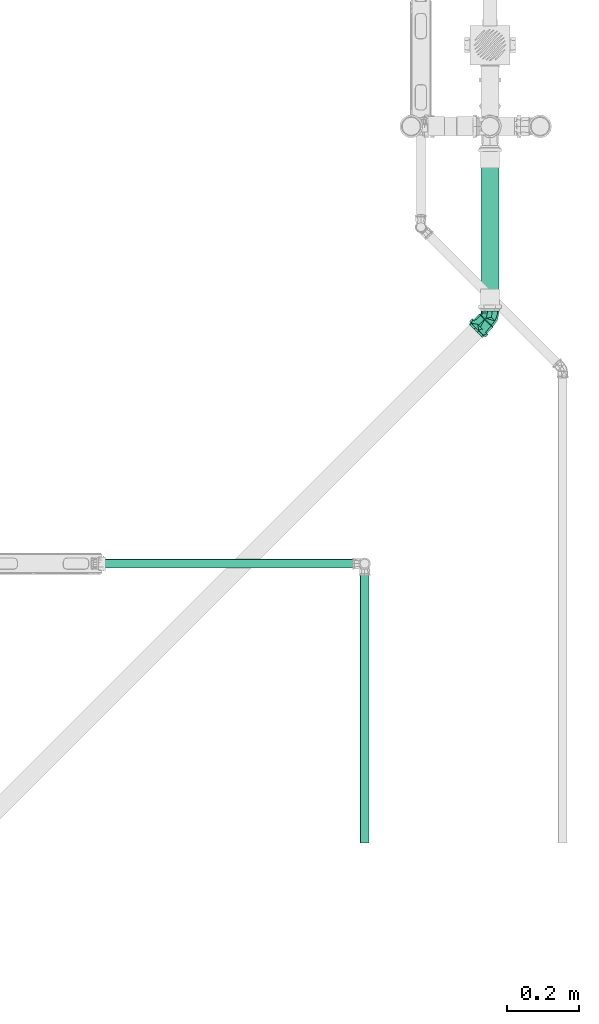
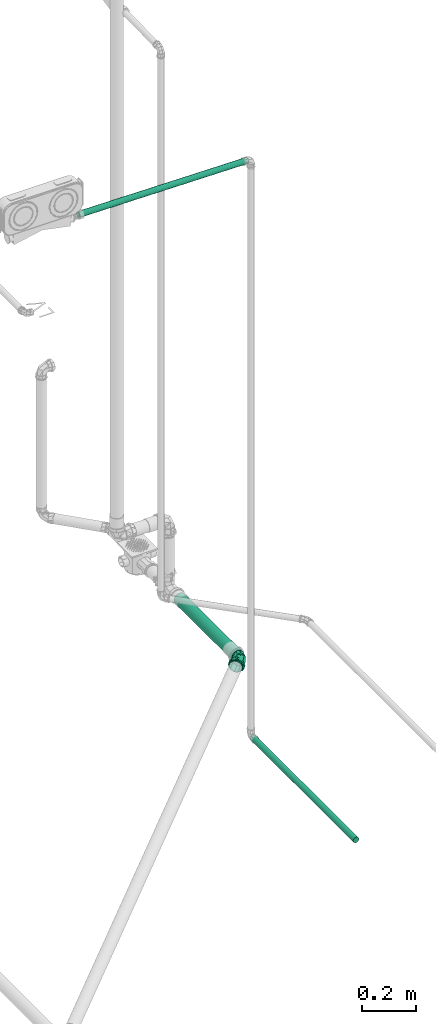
# One storey, part 163 of 589: 3 flow segments, 1 flow fitting.
"""IFC2X3 building model written with IfcOpenShell, lengths in millimetres."""

from ifc_helpers import new_model, entity, si_unit, converted_unit, derived_unit, direction, frame, frame_2d, origin, place, context, subcontext, project, spatial, circle, extrude, faceted_brep, source, transform, mapped, material, type_object, type_shapes, element, save


model = new_model("IFC2X3")

# Units and contexts
model_context = context("Model", 3, precision=0.01, world=origin(), true_north=direction((6.123031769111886e-17, 1.0)))
body_context = subcontext(model_context, "Body", "Model", "MODEL_VIEW")
ifc_project = project(units=[si_unit("LENGTHUNIT", "METRE", prefix="MILLI"), si_unit("AREAUNIT", "SQUARE_METRE"), si_unit("VOLUMEUNIT", "CUBIC_METRE"), converted_unit("PLANEANGLEUNIT", "DEGREE", entity("IfcRatioMeasure", 0.017453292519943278), si_unit("PLANEANGLEUNIT", "RADIAN"), dimensions=[0, 0, 0, 0, 0, 0, 0]), si_unit("MASSUNIT", "GRAM", prefix="KILO"), derived_unit("MASSDENSITYUNIT", [(si_unit("MASSUNIT", "GRAM", prefix="KILO"), 1), (si_unit("LENGTHUNIT", "METRE"), -3)]), derived_unit("IONCONCENTRATIONUNIT", [(si_unit("MASSUNIT", "GRAM", prefix="KILO"), 1), (si_unit("LENGTHUNIT", "METRE"), -3)]), derived_unit("MOMENTOFINERTIAUNIT", [(si_unit("LENGTHUNIT", "METRE"), 4)]), si_unit("TIMEUNIT", "SECOND"), si_unit("FREQUENCYUNIT", "HERTZ"), si_unit("THERMODYNAMICTEMPERATUREUNIT", "DEGREE_CELSIUS"), derived_unit("THERMALTRANSMITTANCEUNIT", [(si_unit("MASSUNIT", "GRAM", prefix="KILO"), 1), (si_unit("THERMODYNAMICTEMPERATUREUNIT", "KELVIN"), -1), (si_unit("TIMEUNIT", "SECOND"), -3)]), derived_unit("THERMALCONDUCTANCEUNIT", [(si_unit("MASSUNIT", "GRAM", prefix="KILO"), 1), (si_unit("THERMODYNAMICTEMPERATUREUNIT", "KELVIN"), -1), (si_unit("TIMEUNIT", "SECOND"), -3), (si_unit("LENGTHUNIT", "METRE"), 1)]), derived_unit("VOLUMETRICFLOWRATEUNIT", [(si_unit("LENGTHUNIT", "METRE"), 3), (si_unit("TIMEUNIT", "SECOND"), -1)]), derived_unit("MASSFLOWRATEUNIT", [(si_unit("MASSUNIT", "GRAM", prefix="KILO"), 1), (si_unit("TIMEUNIT", "SECOND"), -1)]), derived_unit("ROTATIONALFREQUENCYUNIT", [(si_unit("TIMEUNIT", "SECOND"), -1)]), si_unit("ELECTRICCURRENTUNIT", "AMPERE"), si_unit("ELECTRICVOLTAGEUNIT", "VOLT"), si_unit("POWERUNIT", "WATT"), si_unit("FORCEUNIT", "NEWTON", prefix="KILO"), si_unit("ILLUMINANCEUNIT", "LUX"), si_unit("LUMINOUSFLUXUNIT", "LUMEN"), si_unit("LUMINOUSINTENSITYUNIT", "CANDELA"), derived_unit("USERDEFINED", [(si_unit("MASSUNIT", "GRAM", prefix="KILO"), -1), (si_unit("LENGTHUNIT", "METRE"), -2), (si_unit("TIMEUNIT", "SECOND"), 3), (si_unit("LUMINOUSFLUXUNIT", "LUMEN"), 1)]), derived_unit("USERDEFINED", [(si_unit("MASSUNIT", "GRAM", prefix="KILO"), 1), (si_unit("TIMEUNIT", "SECOND"), -3), (si_unit("LENGTHUNIT", "METRE"), 3), (si_unit("ELECTRICCURRENTUNIT", "AMPERE"), -2)]), derived_unit("SOUNDPOWERUNIT", [(si_unit("MASSUNIT", "GRAM", prefix="KILO"), 1), (si_unit("TIMEUNIT", "SECOND"), -3), (si_unit("LENGTHUNIT", "METRE"), 2)]), derived_unit("SOUNDPRESSUREUNIT", [(si_unit("MASSUNIT", "GRAM", prefix="KILO"), 1), (si_unit("LENGTHUNIT", "METRE"), -1), (si_unit("TIMEUNIT", "SECOND"), -2)]), derived_unit("LINEARVELOCITYUNIT", [(si_unit("LENGTHUNIT", "METRE"), 1), (si_unit("TIMEUNIT", "SECOND"), -1)]), si_unit("PRESSUREUNIT", "PASCAL"), derived_unit("USERDEFINED", [(si_unit("MASSUNIT", "GRAM", prefix="KILO"), 1), (si_unit("LENGTHUNIT", "METRE"), -2), (si_unit("TIMEUNIT", "SECOND"), -2)]), derived_unit("LINEARFORCEUNIT", [(si_unit("MASSUNIT", "GRAM", prefix="KILO"), 1), (si_unit("TIMEUNIT", "SECOND"), -2)]), derived_unit("PLANARFORCEUNIT", [(si_unit("MASSUNIT", "GRAM", prefix="KILO"), 1), (si_unit("LENGTHUNIT", "METRE"), -1), (si_unit("TIMEUNIT", "SECOND"), -2)]), derived_unit("SPECIFICHEATCAPACITYUNIT", [(si_unit("THERMODYNAMICTEMPERATUREUNIT", "KELVIN"), -1), (si_unit("LENGTHUNIT", "METRE"), 2), (si_unit("TIMEUNIT", "SECOND"), -2)]), derived_unit("HEATINGVALUEUNIT", [(si_unit("LENGTHUNIT", "METRE"), 2), (si_unit("TIMEUNIT", "SECOND"), -2)]), derived_unit("VAPORPERMEABILITYUNIT", [(si_unit("LENGTHUNIT", "METRE"), -1), (si_unit("TIMEUNIT", "SECOND"), 1)]), derived_unit("DYNAMICVISCOSITYUNIT", [(si_unit("MASSUNIT", "GRAM", prefix="KILO"), 1), (si_unit("TIMEUNIT", "SECOND"), -1), (si_unit("LENGTHUNIT", "METRE"), -1)]), derived_unit("THERMALEXPANSIONCOEFFICIENTUNIT", [(si_unit("THERMODYNAMICTEMPERATUREUNIT", "KELVIN"), -1)]), derived_unit("MODULUSOFELASTICITYUNIT", [(si_unit("MASSUNIT", "GRAM", prefix="KILO"), 1), (si_unit("LENGTHUNIT", "METRE"), -1), (si_unit("TIMEUNIT", "SECOND"), -2)]), derived_unit("ISOTHERMALMOISTURECAPACITYUNIT", [(si_unit("LENGTHUNIT", "METRE"), 3), (si_unit("MASSUNIT", "GRAM", prefix="KILO"), -1)]), derived_unit("MOISTUREDIFFUSIVITYUNIT", [(si_unit("TIMEUNIT", "SECOND"), -1), (si_unit("LENGTHUNIT", "METRE"), 2)])], contexts=[model_context])

# Site, building, storey
site_placement = place(None, origin())
site = spatial("IfcSite", under=ifc_project, at=site_placement, Name="Default", CompositionType="ELEMENT")
building_placement = place(site_placement, origin())
building = spatial("IfcBuilding", under=site, at=building_placement, CompositionType="ELEMENT")
storey_placement = place(building_placement, frame((0.0, 0.0, 100.0)))
storey = spatial("IfcBuildingStorey", under=building, at=storey_placement, Name="TÉRREO", CompositionType="ELEMENT", Elevation=100.0)

# Flow segments
pipe_segment_type_1 = type_object("IfcPipeSegmentType", Name="Tipos de tubos:PVC Esgoto Série Normal", PredefinedType="NOTDEFINED")
flow_segment_1_placement = place(storey_placement, origin())
element("IfcFlowSegment", 1, at=flow_segment_1_placement, inside=storey, type_object=pipe_segment_type_1, Name="Tipos de tubos:PVC Esgoto Série Normal", ObjectType="Tipos de tubos:PVC Esgoto Série Normal", context=body_context, shape_type="SweptSolid", body=[
    extrude(circle(Radius=25.0, at=frame_2d((0.0, -1.6919798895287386e-14), x_axis=(1.0, 0.0))), frame((12044.978158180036, -7182.324497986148, -227.7106242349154), z_axis=(0.0, 1.0, 0.0), x_axis=(-1.0, 0.0, 0.0)), (0.0, 0.0, 1.0), 429.7293108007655),
])
pipe_segment_type_2 = type_object("IfcPipeSegmentType", Name="Tipos de tubos:PVC Marrom Soldável", PredefinedType="NOTDEFINED")
flow_segment_2_placement = place(storey_placement, origin())
element("IfcFlowSegment", 2, at=flow_segment_2_placement, inside=storey, type_object=pipe_segment_type_2, Name="Tipos de tubos:PVC Marrom Soldável", ObjectType="Tipos de tubos:PVC Marrom Soldável", context=body_context, shape_type="SweptSolid", body=[
    extrude(circle(Radius=12.5, at=frame_2d((-2.4025407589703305e-19, -9.417920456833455e-08), x_axis=(1.0, 0.0))), frame((11694.912738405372, -8667.861303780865, -37.355479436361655), z_axis=(-1.8287699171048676e-07, 1.0, 0.0), x_axis=(-1.0, -1.8287699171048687e-07, 0.0)), (0.0, 0.0, 1.0), 764.6000580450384),
])
flow_segment_3_placement = place(storey_placement, origin())
element("IfcFlowSegment", 3, at=flow_segment_3_placement, inside=storey, type_object=pipe_segment_type_2, Name="Tipos de tubos:PVC Marrom Soldável", ObjectType="Tipos de tubos:PVC Marrom Soldável", context=body_context, shape_type="SweptSolid", body=[
    extrude(circle(Radius=12.5, at=frame_2d((0.0, -5.414064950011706e-13), x_axis=(1.0, 0.0))), frame((11678.442548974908, -7887.861245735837, 2571.9681413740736), z_axis=(-0.9999500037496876, 0.0, 0.009999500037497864), x_axis=(0.0, -1.0, 0.0)), (0.0, 0.0, 1.0), 723.1800230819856),
])

# Flow fitting
ifc_material = material(Name="PVC Série Normal")
pipe_fitting_type = type_object("IfcPipeFittingType", Name="PVC Esgoto_Joelho 45_90_Rodrigo MEP:a. Série Normal", PredefinedType="NOTDEFINED", material=ifc_material)
shared_shape = source(origin(), body_context, "Body", "Brep", [
    faceted_brep([(3.0396216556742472, 12.193302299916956, 24.14814565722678), (-7.696517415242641, 22.925149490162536, 12.500000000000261), (-10.06534948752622, 25.29303459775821, 0.0), (-7.696517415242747, 22.925149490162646, -12.499999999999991), (3.039621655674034, 12.19330229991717, -24.1481456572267), (12.192085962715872, 3.0444967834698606, -24.14814565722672), (22.928225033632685, -7.687350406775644, -12.500000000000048), (25.297057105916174, -10.05523551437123, 0.0), (22.928225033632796, -7.687350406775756, 12.499999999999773), (12.192085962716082, 3.0444967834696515, 24.148145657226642), (26.60444512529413, -4.009660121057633, -12.500000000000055), (15.868306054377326, 6.722187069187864, -24.14814565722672), (6.7158417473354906, 15.870992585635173, -24.1481456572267), (-4.020297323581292, 26.602839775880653, -12.499999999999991), (-6.389129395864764, 28.970724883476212, 0.0), (-4.020297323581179, 26.602839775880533, 12.500000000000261), (6.715841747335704, 15.87099258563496, 24.14814565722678), (15.868306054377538, 6.722187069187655, 24.148145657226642), (26.604445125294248, -4.009660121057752, 12.499999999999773), (28.973277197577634, -6.377545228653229, 0.0)], [[[0, 1, 2, 3, 4, 5, 6, 7, 8, 9]], [[10, 11, 12, 13, 14, 15, 16, 17, 18, 19]], [[7, 19, 18, 8]], [[8, 18, 17, 9]], [[17, 16, 0, 9]], [[0, 16, 15, 1]], [[1, 15, 14, 2]], [[2, 14, 13, 3]], [[3, 13, 12, 4]], [[12, 11, 5, 4]], [[5, 11, 10, 6]], [[6, 10, 19, 7]]]),
    faceted_brep([(-55.9725976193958, -6.988114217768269, -26.07999730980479), (-55.9725976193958, -6.47047612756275, -24.14814565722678), (-55.9725976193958, 6.4704761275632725, -24.148145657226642), (-55.9725976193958, -23.382685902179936, -13.499999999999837), (-55.9725976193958, 6.988114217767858, -26.0799973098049), (-55.9725976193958, -21.650635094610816, -12.500000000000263), (-55.9725976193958, -25.0, 0.0), (-55.9725976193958, -27.0, 0.0), (-55.9725976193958, -21.650635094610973, 12.499999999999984), (-55.9725976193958, -23.382685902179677, 13.500000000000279), (-55.9725976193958, -6.470476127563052, 24.1481456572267), (-55.9725976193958, -6.98811421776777, 26.079997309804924), (-55.9725976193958, 6.470476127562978, 24.14814565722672), (-55.9725976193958, 6.988114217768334, 26.07999730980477), (-55.9725976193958, 21.650635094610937, 12.500000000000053), (-55.9725976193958, 23.38268590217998, 13.499999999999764), (-55.9725976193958, 27.0, 0.0), (-55.9725976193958, 25.0, 0.0), (-55.9725976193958, 23.382685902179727, -13.500000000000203), (-55.9725976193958, 21.6506350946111, -12.499999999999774), (-15.9725976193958, 21.650635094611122, -12.499999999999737), (-15.9725976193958, 25.0, 0.0), (-15.9725976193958, 6.4704761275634, -24.148145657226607), (-15.9725976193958, -6.470476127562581, -24.148145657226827), (-15.9725976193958, -21.650635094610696, -12.500000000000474), (-15.9725976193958, -25.0, 0.0), (-15.9725976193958, -21.65063509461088, 12.500000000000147), (-15.9725976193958, -6.470476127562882, 24.14814565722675), (-15.9725976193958, 6.470476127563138, 24.148145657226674), (-15.9725976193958, 21.650635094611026, 12.499999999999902), (-15.9725976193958, 27.0, 0.0), (-15.972597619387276, 20.682232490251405, 17.356418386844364), (-15.972597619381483, 4.685536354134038, 26.59033187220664), (-15.972597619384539, -20.686585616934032, 17.35122979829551), (-15.9725976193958, -27.0, 0.0), (-15.972597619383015, -8.000524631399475, 21.970780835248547), (-15.972597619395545, -20.686585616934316, -17.35122979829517), (-15.972597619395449, -4.6922062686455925, -26.589155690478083), (-15.972597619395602, 20.682232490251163, -17.356418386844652), (-15.972597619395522, 7.995013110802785, -21.972787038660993), (-13.772597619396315, -4.338459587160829, -24.620677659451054), (-13.772597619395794, 25.0, 0.0), (-13.772597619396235, 19.154245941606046, -16.065953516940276), (-13.772597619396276, 7.40789317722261, -20.34331558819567), (-13.772597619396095, -19.15021526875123, -16.07075776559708), (-13.772597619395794, -25.0, 0.0), (-13.772597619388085, -19.150215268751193, 16.070757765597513), (-13.772597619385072, -7.402789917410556, 20.34517318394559), (-13.772597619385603, 19.154245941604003, 16.065953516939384), (-13.772597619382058, 4.344635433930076, 24.619588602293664), (-10.7725976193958, 25.0, 0.0), (-10.772597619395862, 19.151286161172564, 16.069481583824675), (-10.77259761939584, 4.341396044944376, 24.62016003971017), (-10.772597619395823, -7.404832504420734, 20.344954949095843), (-10.772597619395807, -19.15106105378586, 16.069749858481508), (-10.7725976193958, -25.0, 0.0), (-10.772597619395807, -19.15106105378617, -16.069749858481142), (-10.772597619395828, -4.341051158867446, -24.62022085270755), (-10.772597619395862, 19.15128616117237, -16.069481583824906), (-10.772597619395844, 7.405117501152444, -20.344851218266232), (22.928225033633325, -7.687350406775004, -12.500000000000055), (12.192085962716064, 3.0444967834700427, -24.14814565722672), (3.0396216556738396, 12.193302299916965, -24.1481456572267), (-7.696517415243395, 22.925149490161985, -12.499999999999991), (-10.065349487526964, 25.29303459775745, 0.0), (-7.696517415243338, 22.92514949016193, 12.500000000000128), (3.0396216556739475, 12.193302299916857, 24.14814565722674), (12.192085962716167, 3.044496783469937, 24.148145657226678), (22.928225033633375, -7.687350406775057, 12.499999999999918), (25.297057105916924, -10.055235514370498, 0.0), (1.706656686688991, -18.229960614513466, 15.057518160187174), (8.748967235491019, -21.11590501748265, 0.0), (12.77252502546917, -13.644950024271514, 14.852748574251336), (-3.6070347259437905, -23.574308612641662, 0.0), (2.15897029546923, -4.457370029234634, 23.97388512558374), (-10.389821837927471, 25.0761587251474, 0.0), (19.22293436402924, -14.11515207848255, 0.0), (12.769036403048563, -13.641969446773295, -14.858628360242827), (2.121435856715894, -4.511954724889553, -23.963323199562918), (1.7564938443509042, -18.24244270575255, -15.023571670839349)], [[[0, 1, 2]], [[1, 0, 3]], [[2, 4, 0]], [[3, 5, 1]], [[3, 6, 5]], [[6, 3, 7]], [[8, 6, 7]], [[8, 7, 9]], [[9, 10, 8]], [[9, 11, 10]], [[10, 11, 12]], [[13, 12, 11]], [[13, 14, 12]], [[14, 13, 15]], [[16, 14, 15]], [[17, 14, 16]], [[18, 17, 16]], [[18, 19, 17]], [[19, 18, 4]], [[4, 2, 19]], [[20, 21, 17, 19]], [[22, 20, 19, 2]], [[2, 1, 23, 22]], [[24, 23, 1, 5]], [[25, 24, 5, 6]], [[26, 25, 6, 8]], [[27, 26, 8, 10]], [[10, 12, 28, 27]], [[29, 28, 12, 14]], [[21, 29, 14, 17]], [[16, 15, 30]], [[15, 31, 30]], [[31, 15, 13]], [[31, 13, 32]], [[33, 11, 9]], [[34, 9, 7]], [[11, 33, 35, 32]], [[33, 9, 34]], [[11, 32, 13]], [[7, 3, 34]], [[3, 36, 34]], [[36, 3, 0]], [[36, 0, 37]], [[38, 4, 18]], [[30, 18, 16]], [[4, 38, 39, 37]], [[38, 18, 30]], [[4, 37, 0]], [[28, 29, 21, 20, 22, 23, 24, 25, 26, 27]], [[39, 40, 37]], [[41, 42, 30]], [[30, 42, 38]], [[38, 43, 39]], [[44, 45, 36]], [[38, 42, 43]], [[36, 37, 44]], [[34, 36, 45]], [[40, 39, 43]], [[44, 37, 40]], [[45, 46, 33]], [[33, 34, 45]], [[46, 35, 33]], [[46, 47, 35]], [[47, 32, 35]], [[48, 41, 30]], [[48, 31, 49]], [[31, 48, 30]], [[32, 47, 49]], [[49, 31, 32]], [[41, 48, 50]], [[48, 51, 50]], [[51, 48, 49]], [[51, 49, 52]], [[52, 47, 53]], [[46, 54, 53]], [[46, 45, 54]], [[49, 47, 52]], [[54, 45, 55]], [[47, 46, 53]], [[45, 44, 56]], [[45, 56, 55]], [[56, 44, 57]], [[58, 59, 43]], [[44, 40, 57]], [[40, 59, 57]], [[58, 43, 42]], [[42, 50, 58]], [[50, 42, 41]], [[59, 40, 43]], [[60, 61, 62, 63, 64, 65, 66, 67, 68, 69]], [[51, 52, 66]], [[70, 71, 72]], [[54, 55, 73]], [[70, 72, 74]], [[50, 65, 75]], [[51, 65, 50]], [[52, 70, 74]], [[76, 69, 68]], [[71, 70, 73]], [[72, 76, 68]], [[73, 70, 54]], [[76, 72, 71]], [[67, 72, 68]], [[75, 65, 64]], [[70, 52, 53, 54]], [[52, 74, 66]], [[66, 65, 51]], [[67, 74, 72]], [[67, 66, 74]], [[60, 76, 77]], [[73, 55, 56]], [[78, 58, 62]], [[78, 57, 59, 58]], [[79, 73, 56]], [[57, 78, 79]], [[61, 77, 78]], [[58, 50, 63]], [[75, 64, 63]], [[57, 79, 56]], [[60, 69, 76]], [[63, 62, 58]], [[79, 78, 77]], [[61, 60, 77]], [[76, 71, 77]], [[73, 79, 71]], [[79, 77, 71]], [[62, 61, 78]], [[63, 50, 75]]]),
    faceted_brep([(-38.9725976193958, 6.9881142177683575, -26.07999730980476), (-38.9725976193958, -6.988114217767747, -26.079997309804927), (-38.9725976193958, -8.282209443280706, -30.909626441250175), (-38.9725976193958, 8.28220944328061, -30.9096264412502), (-38.9725976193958, 23.38268590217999, -13.499999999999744), (-38.9725976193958, -27.712812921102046, -16.0), (-38.9725976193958, -23.38268590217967, -13.500000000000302), (-38.9725976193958, -27.0, 0.0), (-38.9725976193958, -32.0, 0.0), (-38.9725976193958, -23.382685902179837, 13.500000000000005), (-38.9725976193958, -27.712812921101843, 16.0), (-38.9725976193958, -6.988114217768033, 26.07999730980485), (-38.9725976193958, -8.28220944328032, 30.909626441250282), (-38.9725976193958, 6.988114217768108, 26.07999730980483), (-38.9725976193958, 8.282209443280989, 30.909626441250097), (-38.9725976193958, 23.382685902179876, 13.499999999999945), (-38.9725976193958, 27.712812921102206, 16.0), (-38.9725976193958, 32.0, 0.0), (-38.9725976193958, 27.0, 0.0), (-38.9725976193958, 27.712812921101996, -16.0), (-48.9725976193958, 27.0, 0.0), (-50.27259761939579, 27.0, 0.0), (-48.9725976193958, 25.191342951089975, -6.750000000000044), (-48.9725976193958, 23.38268590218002, -13.499999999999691), (-48.9725976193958, 19.284042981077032, -16.644999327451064), (-48.9725976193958, 15.185400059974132, -19.789998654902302), (-48.9725976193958, 11.086757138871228, -22.934997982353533), (-48.9725976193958, 6.988114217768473, -26.07999730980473), (-48.9725976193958, 0.0, -26.079997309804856), (-48.9725976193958, -6.988114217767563, -26.079997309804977), (-48.9725976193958, -11.086757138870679, -22.934997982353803), (-48.9725976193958, -15.185400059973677, -19.789998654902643), (-48.9725976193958, -19.284042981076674, -16.644999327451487), (-48.9725976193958, -23.382685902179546, -13.50000000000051), (-48.9725976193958, -25.191342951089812, -6.750000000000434), (-50.27259761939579, -27.0, 0.0), (-48.9725976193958, -27.0, 0.0), (-48.9725976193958, -25.19134295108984, 6.750000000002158), (-48.9725976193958, -23.382685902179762, 13.500000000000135), (-48.9725976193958, -19.284042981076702, 16.64499932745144), (-48.9725976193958, -15.185400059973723, 19.7899986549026), (-48.9725976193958, -11.086757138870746, 22.934997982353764), (-48.9725976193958, -6.988114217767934, 26.079997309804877), (-48.9725976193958, 0.0, 26.079997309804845), (-48.9725976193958, 6.988114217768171, 26.079997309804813), (-48.9725976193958, 11.086757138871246, 22.93499798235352), (-48.9725976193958, 15.185400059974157, 19.789998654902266), (-48.9725976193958, 19.284042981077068, 16.644999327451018), (-48.9725976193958, 23.382685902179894, 13.499999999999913), (-48.9725976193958, 25.19134295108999, 6.74999999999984), (-48.9725976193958, 32.0, 0.0), (-48.9725976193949, 24.512275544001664, 20.570569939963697), (-48.97259761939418, -5.561133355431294, 31.51307341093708), (-48.9725976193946, -24.51743480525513, 20.56442050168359), (-48.9725976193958, -32.0, 0.0), (-48.97259761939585, -24.51743480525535, -20.564420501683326), (-48.972597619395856, 5.553228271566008, -31.514467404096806), (-48.972597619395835, 24.512275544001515, -20.570569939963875), (-50.27259761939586, -23.84329280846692, -8.675614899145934), (-50.27259761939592, -20.686585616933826, -17.351229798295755), (-50.272597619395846, 23.841116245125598, -8.678209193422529), (-50.27259761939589, 20.6822324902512, -17.356418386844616), (-50.272597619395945, -12.689395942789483, -21.970192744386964), (-50.27259761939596, -4.692206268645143, -26.589155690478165), (-50.2725976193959, 14.338622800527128, -19.664602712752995), (-50.272597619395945, 1.6514034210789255, -24.280971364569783), (-50.272597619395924, 7.995013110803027, -21.97278703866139), (-50.272597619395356, 23.84111624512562, 8.678209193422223), (-50.2725976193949, 20.68223249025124, 17.35641838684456), (-50.2725976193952, -23.843292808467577, 8.675614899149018), (-50.27259761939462, -20.686585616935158, 17.351229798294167), (-50.27259761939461, 12.683884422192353, 21.973375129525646), (-50.272597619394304, 4.685536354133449, 26.590331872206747), (-50.27259761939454, -14.343555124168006, 19.66100531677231), (-50.27259761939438, -1.6574941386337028, 24.2805563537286), (-50.27259761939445, -8.000524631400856, 21.97078083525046)], [[[0, 1, 2]], [[2, 3, 0]], [[4, 0, 3]], [[5, 2, 1]], [[1, 6, 5]], [[6, 7, 5]], [[8, 5, 7]], [[8, 7, 9]], [[10, 8, 9]], [[9, 11, 10]], [[11, 12, 10]], [[13, 12, 11]], [[12, 13, 14]], [[13, 15, 14]], [[16, 14, 15]], [[16, 15, 17]], [[17, 15, 18]], [[18, 4, 19]], [[17, 18, 19]], [[3, 19, 4]], [[4, 18, 20, 21, 22, 23]], [[0, 4, 23, 24, 25, 26, 27]], [[0, 27, 28, 29, 1]], [[6, 1, 29, 30, 31, 32, 33]], [[7, 6, 33, 34, 35, 36]], [[9, 7, 36, 35, 37, 38]], [[11, 9, 38, 39, 40, 41, 42]], [[11, 42, 43, 44, 13]], [[15, 13, 44, 45, 46, 47, 48]], [[18, 15, 48, 49, 21, 20]], [[50, 51, 16]], [[50, 16, 17]], [[16, 51, 14]], [[51, 52, 14]], [[12, 52, 53]], [[10, 53, 54]], [[53, 10, 12]], [[10, 54, 8]], [[52, 12, 14]], [[54, 55, 5]], [[54, 5, 8]], [[5, 55, 2]], [[55, 56, 2]], [[3, 56, 57]], [[19, 57, 50]], [[57, 19, 3]], [[19, 50, 17]], [[56, 3, 2]], [[58, 33, 59]], [[23, 60, 61]], [[32, 31, 59, 33]], [[30, 29, 62, 31]], [[24, 23, 61, 25]], [[29, 28, 63]], [[26, 25, 64]], [[65, 63, 28]], [[31, 62, 59]], [[63, 62, 29]], [[60, 22, 21]], [[34, 58, 35]], [[66, 26, 64]], [[28, 27, 65]], [[27, 66, 65]], [[27, 26, 66]], [[64, 25, 61]], [[34, 33, 58]], [[60, 23, 22]], [[67, 48, 68]], [[38, 69, 70]], [[47, 46, 68, 48]], [[45, 44, 71, 46]], [[39, 38, 70, 40]], [[44, 43, 72]], [[41, 40, 73]], [[74, 72, 43]], [[46, 71, 68]], [[72, 71, 44]], [[69, 37, 35]], [[49, 67, 21]], [[75, 41, 73]], [[43, 42, 74]], [[42, 75, 74]], [[42, 41, 75]], [[73, 40, 70]], [[49, 48, 67]], [[69, 38, 37]], [[54, 35, 58, 59, 55]], [[55, 59, 62, 63]], [[55, 63, 56]], [[57, 61, 60, 21, 50]], [[57, 56, 61]], [[56, 63, 65, 66, 64, 61]], [[50, 21, 67, 68, 51]], [[51, 68, 71, 72]], [[51, 72, 52]], [[53, 70, 69, 35, 54]], [[53, 52, 70]], [[52, 72, 74, 75, 73, 70]]]),
])
type_shapes(pipe_fitting_type, [shared_shape])
flow_fitting_placement = place(storey_placement, frame((12044.978158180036, -7198.297095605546, -227.7106242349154), z_axis=(-0.028272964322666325, 0.0, 0.9996002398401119), x_axis=(0.706965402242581, 0.7069654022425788, 0.019996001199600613)))
element("IfcFlowFitting", 4, at=flow_fitting_placement, inside=storey, type_object=pipe_fitting_type, material=ifc_material, Name="PVC Esgoto_Joelho 45_90_Rodrigo MEP:a. Série Normal", ObjectType="PVC Esgoto_Joelho 45_90_Rodrigo MEP:a. Série Normal", context=body_context, shape_type="MappedRepresentation", body=[
    mapped(shared_shape, transform((0.0, 0.0, 0.0), scale=1.0)),
])

save(model, "model.ifc")
